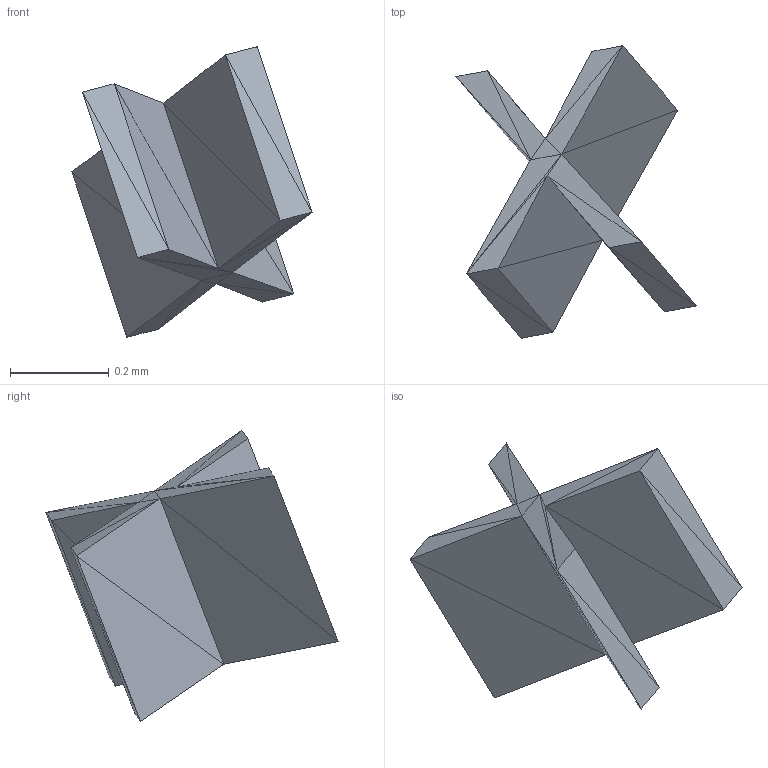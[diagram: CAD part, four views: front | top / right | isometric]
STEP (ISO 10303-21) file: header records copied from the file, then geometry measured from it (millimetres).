
FILE_DESCRIPTION(/* description */ (''),/* implementation_level */ '2;1');
FILE_NAME(/* name */ 'X.stp',/* time_stamp */ '2014-7-20T16:04:45.6392092',/* author */ ('EtsujiNomura'),/* organization */ (''),/* preprocessor_version */ 'InStep v2',/* originating_system */ 'InStep V2.3',/* authorisation */ '');
FILE_SCHEMA (('AUTOMOTIVE_DESIGN { 1 0 10303 214 1 1 1 1 }'));
Length unit declared in the file: millimetre
Products named in the file (1): None
Bounding box: 0.49 x 0.59 x 0.59 mm (x, y, z)
Volume: 0 mm3; surface area: 0.9 mm2
Topology: 1 solids, 1 shells, 44 faces, 66 edges, 24 vertices
Faces by surface type: plane 44
Entity records: 718 total; most frequent: ORIENTED_EDGE 132, DIRECTION 101, LINE 66, EDGE_CURVE 66, VECTOR 55, AXIS2_PLACEMENT_3D 45, EDGE_LOOP 44, FACE_OUTER_BOUND 44
